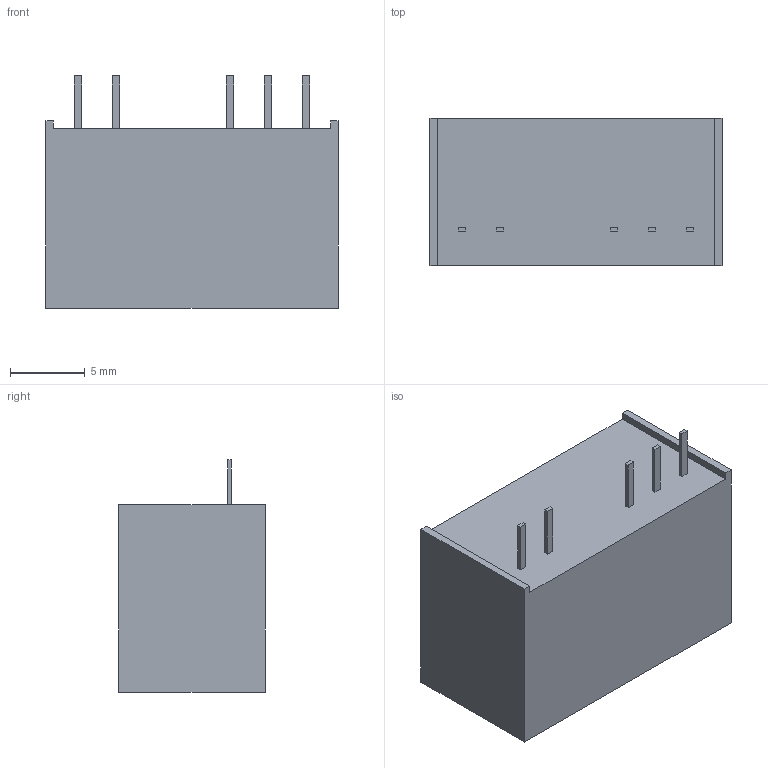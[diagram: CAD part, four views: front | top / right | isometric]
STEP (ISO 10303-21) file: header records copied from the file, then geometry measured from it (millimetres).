
FILE_DESCRIPTION(/* description */ ('Unknown'),/* implementation_level */ '2;1');
FILE_NAME(/* name */ 'IML02(D)',/* time_stamp */ '2017-11-28T16:45:56+08:00',/* author */ ('Unknown'),/* organization */ ('Unknown'),/* preprocessor_version */ 'ST-DEVELOPER v16.7',/* originating_system */ 'DEX',/* authorisation */ $);
FILE_SCHEMA (('AUTOMOTIVE_DESIGN {1 0 10303 214 3 1 1}'));
Length unit declared in the file: millimetre
Products named in the file (1): IML02(D)
Bounding box: 19.5 x 9.8 x 15.5 mm (x, y, z)
Volume: 2300.3 mm3; surface area: 1132.3 mm2
Topology: 1 solids, 1 shells, 35 faces, 84 edges, 56 vertices
Faces by surface type: plane 35
Entity records: 1028 total; most frequent: CARTESIAN_POINT 176, ORIENTED_EDGE 168, DIRECTION 156, EDGE_CURVE 84, LINE 84, VECTOR 84, VERTEX_POINT 56, EDGE_LOOP 40
